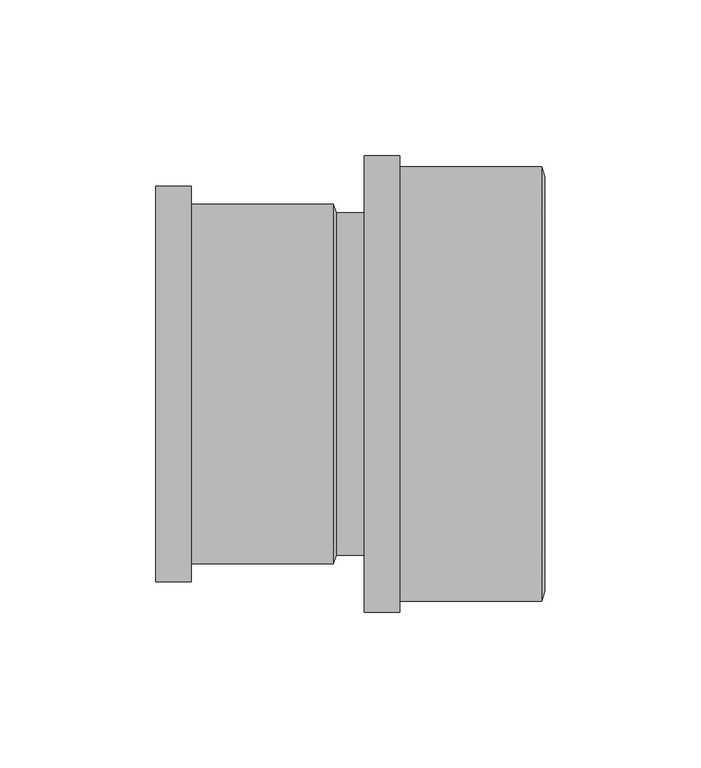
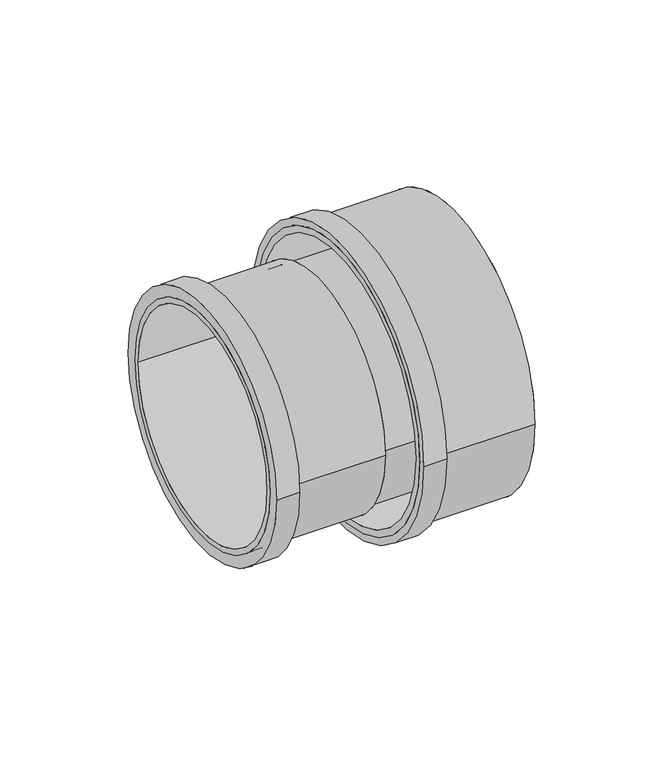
"""IFC4 building model written with IfcOpenShell, lengths in millimetres: pipe fitting geometry, Superdrain SKAM Single socket : Superdrain SKAM Single socket."""

from ifc_helpers import new_model, si_unit, point, frame, origin, origin_2d, place, context, project, spatial, polyline, circle_curve, trimmed, segment, composite_curve, outline, extrude, source, transform, mapped, element, save
from ifc_brep_helpers import plane_surface, revolved_surface, advanced_brep


def pipe_fitting_2e757afb(model_context):
    return source(origin(), model_context, "Body", "SolidModel", [
        extrude(outline(composite_curve([segment(trimmed(circle_curve(origin_2d(), 69.825), [point((-69.825, 0.0))], [point((69.825, 0.0))], False, "CARTESIAN"), True, "CONTINUOUS"), segment(trimmed(circle_curve(origin_2d(), 69.825), [point((69.825, 0.0))], [point((-69.825, 0.0))], False, "CARTESIAN"), True, "CONTINUOUS")], self_intersect=False), holes=[composite_curve([segment(trimmed(circle_curve(origin_2d(), 66.5), [point((-66.5, 0.0))], [point((66.5, 0.0))], True, "CARTESIAN"), True, "CONTINUOUS"), segment(trimmed(circle_curve(origin_2d(), 66.5), [point((66.5, 0.0))], [point((-66.5, 0.0))], True, "CARTESIAN"), True, "CONTINUOUS")], self_intersect=False)]), frame((7.0, 0.0, 0.0), z_axis=(1.0, 0.0, 0.0), x_axis=(0.0, 1.0, 0.0)), (0.0, 0.0, 1.0), 57.0),
        extrude(outline(composite_curve([segment(trimmed(circle_curve(origin_2d(), 73.31625), [point((-73.31625, 0.0))], [point((73.31625, 0.0))], False, "CARTESIAN"), True, "CONTINUOUS"), segment(trimmed(circle_curve(origin_2d(), 73.31625), [point((73.31625, 0.0))], [point((-73.31625, 0.0))], False, "CARTESIAN"), True, "CONTINUOUS")], self_intersect=False), holes=[composite_curve([segment(trimmed(circle_curve(origin_2d(), 66.5), [point((-66.5, 0.0))], [point((66.5, 0.0))], True, "CARTESIAN"), True, "CONTINUOUS"), segment(trimmed(circle_curve(origin_2d(), 66.5), [point((66.5, 0.0))], [point((-66.5, 0.0))], True, "CARTESIAN"), True, "CONTINUOUS")], self_intersect=False)]), frame((7.0, 0.0, 0.0), z_axis=(1.0, 0.0, 0.0), x_axis=(0.0, 1.0, 0.0)), (0.0, 0.0, 1.0), 11.4),
        advanced_brep(
        [(65.0, -66.5, 0.0), (65.0, 66.5, 0.0), (64.0, -69.825, 0.0), (64.0, 69.825, 0.0)],
        [
            (0, 1, circle_curve(frame((65.0, 0.0, 0.0), z_axis=(1.0, 0.0, 0.0), x_axis=(0.0, -1.0, 0.0)), 66.5)),
            (1, 0, circle_curve(frame((65.0, 0.0, 0.0), z_axis=(1.0, 0.0, 0.0), x_axis=(0.0, 1.0, 0.0)), 66.5)),
            (2, 3, circle_curve(frame((64.0, 0.0, 0.0), z_axis=(-1.0, 0.0, 0.0), x_axis=(0.0, 1.0, 0.0)), 69.825)),
            (3, 2, circle_curve(frame((64.0, 0.0, 0.0), z_axis=(-1.0, 0.0, 0.0), x_axis=(0.0, -1.0, 0.0)), 69.825)),
            (3, 1),
            (0, 2),
        ],
        [
            plane_surface(frame((65.0, 0.0, 0.0), z_axis=(1.0, 0.0, 0.0), x_axis=(0.0, 0.0, -1.0))),
            plane_surface(frame((64.0, 0.0, 0.0), z_axis=(-1.0, 0.0, 0.0), x_axis=(0.0, 0.0, -1.0))),
            revolved_surface(polyline([(65.0, -66.5, 0.0), (64.0, -69.825, 0.0)]), (85.0, 0.0, 0.0), (-1.0, 0.0, 0.0)),
            revolved_surface(polyline([(65.0, 66.5, 0.0), (64.0, 69.825, 0.0)]), (85.0, 0.0, 0.0), (-1.0, 0.0, 0.0)),
        ],
        [
            (0, [[1, 2]]),
            (1, [[3, 4]]),
            (2, [[-4, 5, -1, 6]]),
            (3, [[-3, -6, -2, -5]]),
        ],
    ),
        extrude(outline(composite_curve([segment(trimmed(circle_curve(origin_2d(), 57.75), [point((-57.75, 0.0))], [point((57.75, 0.0))], False, "CARTESIAN"), True, "CONTINUOUS"), segment(trimmed(circle_curve(origin_2d(), 57.75), [point((57.75, 0.0))], [point((-57.75, 0.0))], False, "CARTESIAN"), True, "CONTINUOUS")], self_intersect=False), holes=[composite_curve([segment(trimmed(circle_curve(origin_2d(), 55.0), [point((-55.0, 0.0))], [point((55.0, 0.0))], True, "CARTESIAN"), True, "CONTINUOUS"), segment(trimmed(circle_curve(origin_2d(), 55.0), [point((55.0, 0.0))], [point((-55.0, 0.0))], True, "CARTESIAN"), True, "CONTINUOUS")], self_intersect=False)]), frame((-60.0, 0.0, 0.0), z_axis=(1.0, 0.0, 0.0), x_axis=(0.0, 1.0, 0.0)), (0.0, 0.0, 1.0), 57.0),
        extrude(outline(composite_curve([segment(trimmed(circle_curve(origin_2d(), 63.525), [point((-63.525, 0.0))], [point((63.525, 0.0))], False, "CARTESIAN"), True, "CONTINUOUS"), segment(trimmed(circle_curve(origin_2d(), 63.525), [point((63.525, 0.0))], [point((-63.525, 0.0))], False, "CARTESIAN"), True, "CONTINUOUS")], self_intersect=False), holes=[composite_curve([segment(trimmed(circle_curve(origin_2d(), 55.0), [point((-55.0, 0.0))], [point((55.0, 0.0))], True, "CARTESIAN"), True, "CONTINUOUS"), segment(trimmed(circle_curve(origin_2d(), 55.0), [point((55.0, 0.0))], [point((-55.0, 0.0))], True, "CARTESIAN"), True, "CONTINUOUS")], self_intersect=False)]), frame((-60.0, 0.0, 0.0), z_axis=(1.0, 0.0, 0.0), x_axis=(0.0, 1.0, 0.0)), (0.0, 0.0, 1.0), 11.4),
        advanced_brep(
        [(-2.0, -55.0, 0.0), (-2.0, 55.0, 0.0), (-3.0, -57.75, 0.0), (-3.0, 57.75, 0.0)],
        [
            (0, 1, circle_curve(frame((-2.0, 0.0, 0.0), z_axis=(1.0, 0.0, 0.0), x_axis=(0.0, -1.0, 0.0)), 55.0)),
            (1, 0, circle_curve(frame((-2.0, 0.0, 0.0), z_axis=(1.0, 0.0, 0.0), x_axis=(0.0, 1.0, 0.0)), 55.0)),
            (2, 3, circle_curve(frame((-3.0, 0.0, 0.0), z_axis=(-1.0, 0.0, 0.0), x_axis=(0.0, 1.0, 0.0)), 57.75)),
            (3, 2, circle_curve(frame((-3.0, 0.0, 0.0), z_axis=(-1.0, 0.0, 0.0), x_axis=(0.0, -1.0, 0.0)), 57.75)),
            (3, 1),
            (0, 2),
        ],
        [
            plane_surface(frame((-2.0, 0.0, 0.0), z_axis=(1.0, 0.0, 0.0), x_axis=(0.0, 0.0, -1.0))),
            plane_surface(frame((-3.0, 0.0, 0.0), z_axis=(-1.0, 0.0, 0.0), x_axis=(0.0, 0.0, -1.0))),
            revolved_surface(polyline([(-2.0, -55.0, 0.0), (-3.0, -57.75, 0.0)]), (18.0, 0.0, 0.0), (-1.0, 0.0, 0.0)),
            revolved_surface(polyline([(-2.0, 55.0, 0.0), (-3.0, 57.75, 0.0)]), (18.0, 0.0, 0.0), (-1.0, 0.0, 0.0)),
        ],
        [
            (0, [[1, 2]]),
            (1, [[3, 4]]),
            (2, [[-4, 5, -1, 6]]),
            (3, [[-3, -6, -2, -5]]),
        ],
    ),
        extrude(outline(composite_curve([segment(trimmed(circle_curve(origin_2d(), 55.0), [point((-55.0, 0.0))], [point((55.0, 0.0))], False, "CARTESIAN"), True, "CONTINUOUS"), segment(trimmed(circle_curve(origin_2d(), 55.0), [point((55.0, 0.0))], [point((-55.0, 0.0))], False, "CARTESIAN"), True, "CONTINUOUS")], self_intersect=False)), frame((-3.0, 0.0, 0.0), z_axis=(1.0, 0.0, 0.0), x_axis=(0.0, 1.0, 0.0)), (0.0, 0.0, 1.0), 67.0),
    ])


if __name__ == "__main__":
    model = new_model("IFC4")
    model_context = context("Model", 3, world=origin())
    ifc_project = project(units=[si_unit("LENGTHUNIT", "METRE", prefix="MILLI")], contexts=[model_context])
    site = spatial("IfcSite", under=ifc_project)
    building = spatial("IfcBuilding", under=site)
    placement = place(None, origin())
    pipe_fitting_shape = pipe_fitting_2e757afb(model_context)
    element("IfcPipeFitting", 1, ObjectType="Superdrain SKAM Single socket : Superdrain SKAM Single socket", at=placement, inside=building, context=model_context, shape_type="MappedRepresentation", body=[
        mapped(pipe_fitting_shape, transform((0.0, 0.0, 0.0), x_axis=(1.0, 0.0, 0.0), y_axis=(0.0, 1.0, 0.0), z_axis=(0.0, 0.0, 1.0))),
    ])
    save(model, "model.ifc")
